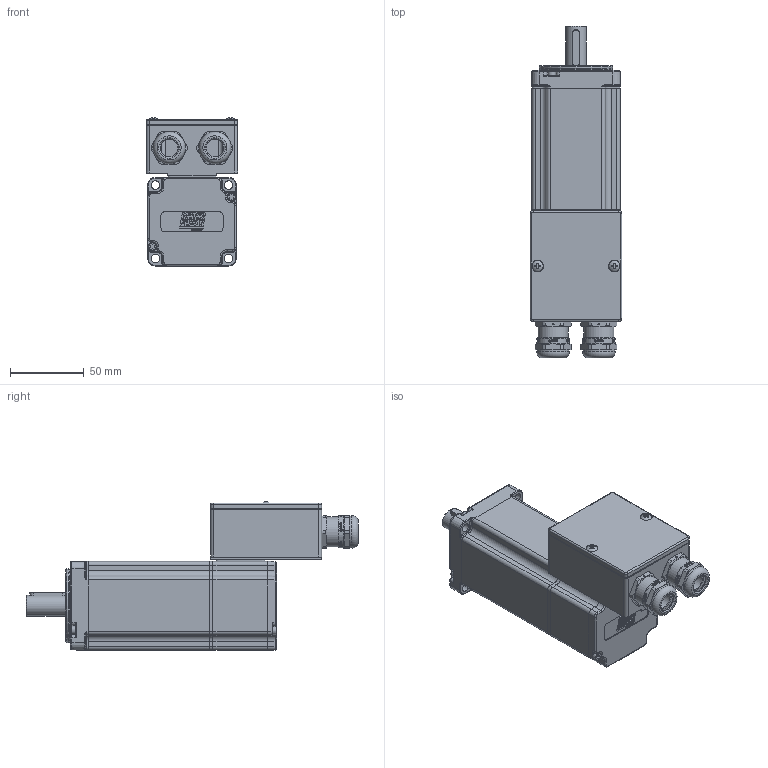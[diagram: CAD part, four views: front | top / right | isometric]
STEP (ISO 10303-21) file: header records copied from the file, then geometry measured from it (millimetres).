
FILE_DESCRIPTION(/* description */ ('Unknown'),/* implementation_level */ '2;1');
FILE_NAME(/* name */ 'TC4-60.2B LV M1 MORS Q0C151',/* time_stamp */ '2026-06-09T11:47:58+02:00',/* author */ ('Unknown'),/* organization */ ('Unknown'),/* preprocessor_version */ 'ST-DEVELOPER v19.4',/* originating_system */ 'Solid Edge',/* authorisation */ 'Unknown');
FILE_SCHEMA (('AUTOMOTIVE_DESIGN {1 0 10303 214 3 1 1}'));
Products named in the file (24): Q0C151 2B VUOTO M1; 003103040220; 005911000203; 005119001310; 007303000700; 005911000201; 003151003179; 005911000503; 003107003285; 003155002207; 005911000492; 005911000495; Albero TC4 60 H41 LV V2; 007303000800; 003110000040; 005113000400; 005603000160; 005603000160_Gland; 005603000160_Nut; 005603000160_Clamping insert; 005603000160_Sealing insert; 005603000160_O Ring; 003755100323; 003251040722
Assembly tree (32 placements, depth 3):
  Q0C151 2B VUOTO M1
    003103040220
    005911000203  x4
    005119001310
    007303000700
    005911000201
    003151003179
    005911000503  x2
    003107003285
    003155002207
    005911000492  x2
    005911000495  x4
    Albero TC4 60 H41 LV V2
    007303000800
    003110000040
    005113000400
    005603000160  x2
      005603000160_Gland
      005603000160_Nut
      005603000160_Clamping insert
      005603000160_Sealing insert
      005603000160_O Ring
    003755100323
    003251040722
Bounding box: 62 x 224.67 x 100.3 mm (x, y, z)
Volume: 244507.8 mm3; surface area: 169575.1 mm2
Topology: 36 solids, 37 shells, 2852 faces, 7189 edges, 4597 vertices
Faces by surface type: plane 1636, cylinder 603, bspline 226, cone 193, torus 174, sphere 20
Full cylindrical faces by diameter (mm): 2.013 x8, 2.459 x16, 2.5 x1, 3 x11, 3.2 x1, 3.242 x7, 3.5 x18, 3.9 x2, 4 x4, 4.134 x1, 4.25 x4, 4.5 x4, 5 x8, 5.25 x4, 5.3 x1, 5.5 x7, 5.8 x4, 7 x4, 7.5 x2, 8 x2, 10 x1, 12 x2, 12.2 x2, 12.3 x2, 13 x1, 14 x3, 14.1 x4, 14.5 x1, 14.99 x1, 15 x1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
Entity records: 78420 total; most frequent: CARTESIAN_POINT 18582, DIRECTION 10195, ORIENTED_EDGE 10174, EDGE_CURVE 5087, AXIS2_PLACEMENT_3D 3738, VERTEX_POINT 3405, FACE_BOUND 2758, EDGE_LOOP 2740
